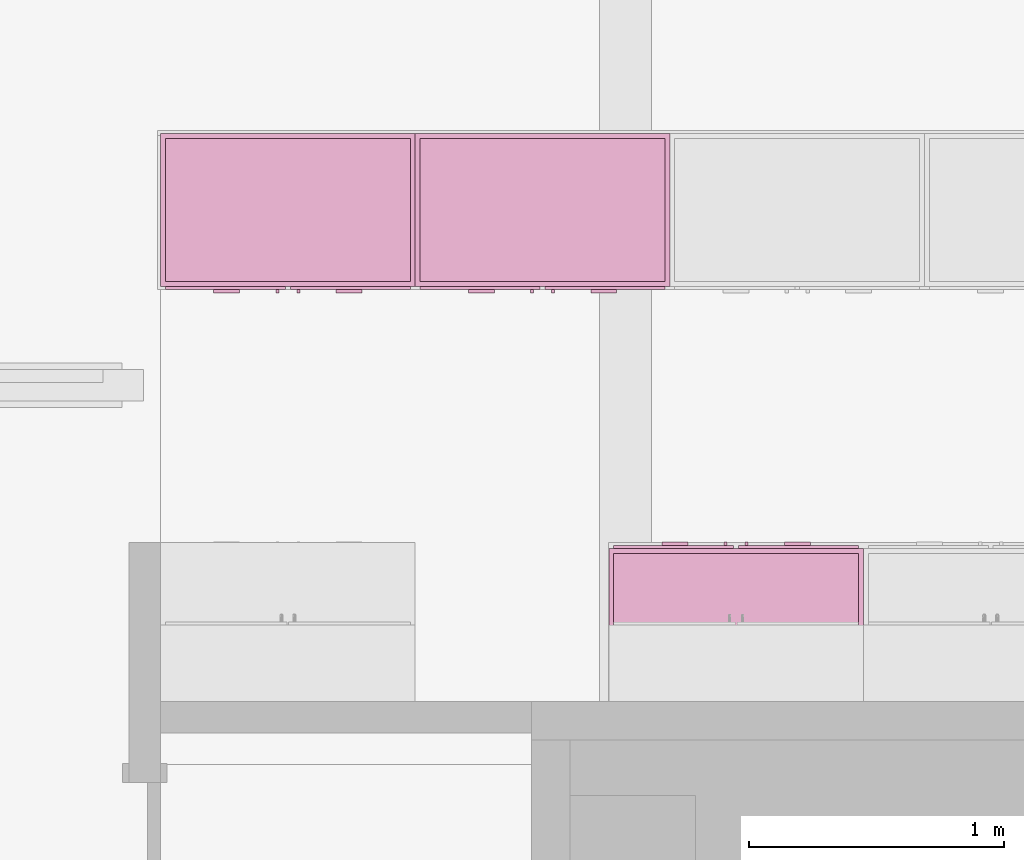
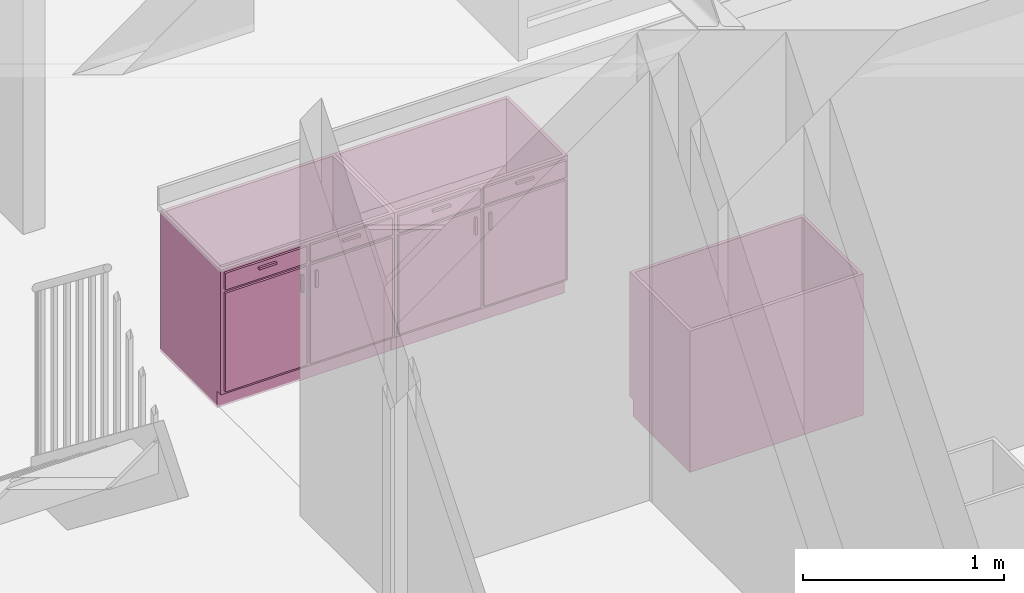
# One storey, part 10 of 14: 3 furnishings.
"""IFC4 building model written with IfcOpenShell, lengths in metres."""

from ifc_helpers import new_model, entity, si_unit, converted_unit, frame, origin, place, context, project, spatial, face_set, surface_model, source, transform, mapped, element, save


model = new_model("IFC4")

# Units and contexts
model_context = context("Model", 3, precision=1e-09, world=origin())
plan_context = context("Plan", 3, precision=1e-09, world=origin())
ifc_project = project(units=[si_unit("LENGTHUNIT", "METRE"), si_unit("AREAUNIT", "SQUARE_METRE"), si_unit("VOLUMEUNIT", "CUBIC_METRE"), converted_unit("PLANEANGLEUNIT", "DEGREE", entity("IfcRatioMeasure", 0.01745329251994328), si_unit("PLANEANGLEUNIT", "RADIAN"), dimensions=[0, 0, 0, 0, 0, 0, 0]), si_unit("TIMEUNIT", "SECOND")], contexts=[model_context, plan_context])

# Site, building, storey, space
site_placement = place(None, origin())
site = spatial("IfcSite", under=ifc_project, at=site_placement, Name="Default", CompositionType="ELEMENT")
building_placement = place(site_placement, origin())
building = spatial("IfcBuilding", under=site, at=building_placement, CompositionType="ELEMENT")
storey_placement = place(building_placement, origin())
storey = spatial("IfcBuildingStorey", under=building, at=storey_placement, Name="Level 1", CompositionType="ELEMENT", Elevation=0.0)
space_placement = place(storey_placement, origin())
space = spatial("IfcSpace", under=storey, at=space_placement, Name="B103", CompositionType="ELEMENT", PredefinedType="INTERNAL")

# Furnishings
shared_shape = source(origin(), model_context, "Body", "SurfaceModel", [
    surface_model("IfcFaceBasedSurfaceModel", [(0.9809499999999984, 0.04445000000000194, 0.8600000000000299), (0.9809499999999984, 0.04445000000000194, 0.0999999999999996), (0.01905000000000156, 0.04445000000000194, 0.0999999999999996), (0.01905000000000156, 0.04445000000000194, 0.8600000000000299), (1.0, 0.02540000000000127, 0.8600000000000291), (0.0, 0.02540000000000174, 0.8600000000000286), (1.0, 0.02540000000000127, 0.0999999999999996), (0.0, 0.02540000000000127, 0.09999999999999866), (0.01905000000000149, 0.606349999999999, 0.8600000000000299), (0.01905000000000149, 0.606349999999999, 0.09999999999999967), (0.01905000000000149, 0.06040000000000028, 0.0999999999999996), (0.0, 0.6253999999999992, 0.8600000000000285), (0.0, 0.6254000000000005, 0.0), (0.0, 0.06040000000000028, 0.0), (0.0, 0.06040000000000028, 0.09999999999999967), (0.9809499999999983, 0.6063499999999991, 0.8600000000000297), (0.9809499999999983, 0.6063499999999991, 0.09999999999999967), (1.0, 0.6253999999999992, 0.8600000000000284), (1.0, 0.6253999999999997, 0.0), (0.9809499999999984, 0.06040000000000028, 0.09999999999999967), (1.0, 0.06040000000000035, 0.09999999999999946), (1.0, 0.06040000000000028, 0.0), (0.3103250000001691, 0.0, 0.815550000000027), (0.3103250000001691, 0.0, 0.8028500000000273), (0.2087250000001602, 0.0, 0.8028500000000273), (0.2087250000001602, 0.0, 0.815550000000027), (0.7912750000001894, 0.0, 0.815550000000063), (0.7912750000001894, 0.0, 0.8028500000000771), (0.6896750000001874, 0.0, 0.8028500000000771), (0.6896750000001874, 0.0, 0.815550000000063), (0.4650750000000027, 0.0, 0.6822000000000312), (0.4650750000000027, 0.0, 0.5806000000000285), (0.4523750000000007, 0.0, 0.5806000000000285), (0.4523750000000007, 0.0, 0.6822000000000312), (0.5476249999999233, 0.0, 0.6822000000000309), (0.5476249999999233, 0.0, 0.5806000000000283), (0.5349249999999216, 0.0, 0.5806000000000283), (0.5349249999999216, 0.0, 0.6822000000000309), (0.3103250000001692, 0.01270000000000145, 0.815550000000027), (0.3103250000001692, 0.01270000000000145, 0.8028500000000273), (0.2087250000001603, 0.01270000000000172, 0.8028500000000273), (0.2087250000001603, 0.01270000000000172, 0.815550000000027), (0.7912750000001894, 0.01269999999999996, 0.815550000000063), (0.7912750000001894, 0.01269999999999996, 0.8028500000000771), (0.6896750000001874, 0.01270000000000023, 0.8028500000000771), (0.6896750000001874, 0.01270000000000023, 0.815550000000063), (0.4650750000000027, 0.0127000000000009, 0.6822000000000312), (0.4650750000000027, 0.0127000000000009, 0.5806000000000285), (0.4523750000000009, 0.0127000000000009, 0.5806000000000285), (0.4523750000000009, 0.0127000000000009, 0.6822000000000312), (0.5476249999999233, 0.01270000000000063, 0.6822000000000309), (0.5476249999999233, 0.01270000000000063, 0.5806000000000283), (0.5349249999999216, 0.01270000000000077, 0.5806000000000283), (0.5349249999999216, 0.01270000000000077, 0.6822000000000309), (0.4904749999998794, 0.0127000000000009, 0.840950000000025), (0.4904749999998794, 0.0127000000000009, 0.7393500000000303), (0.01905000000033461, 0.01270000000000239, 0.7393500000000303), (0.01905000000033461, 0.01270000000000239, 0.840950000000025), (0.9809500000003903, 0.01269999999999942, 0.8409500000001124), (0.9809500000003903, 0.01269999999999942, 0.7393500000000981), (0.509524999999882, 0.0127000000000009, 0.7393500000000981), (0.509524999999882, 0.0127000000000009, 0.8409500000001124), (0.4904749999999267, 0.0127000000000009, 0.7203000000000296), (0.4904749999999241, 0.0127000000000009, 0.119049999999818), (0.01905000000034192, 0.01270000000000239, 0.119049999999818), (0.01905000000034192, 0.01270000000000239, 0.7203000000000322), (0.9809500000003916, 0.01269999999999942, 0.7203000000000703), (0.9809500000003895, 0.01269999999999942, 0.1190499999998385), (0.5095249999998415, 0.0127000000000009, 0.1190499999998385), (0.5095249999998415, 0.0127000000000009, 0.7203000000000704), (0.4904749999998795, 0.02540000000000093, 0.840950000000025), (0.4904749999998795, 0.02540000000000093, 0.7393500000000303), (0.01905000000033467, 0.02540000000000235, 0.7393500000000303), (0.01905000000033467, 0.02540000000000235, 0.840950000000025), (0.9809500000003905, 0.02539999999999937, 0.8409500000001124), (0.9809500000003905, 0.02539999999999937, 0.7393500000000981), (0.5095249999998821, 0.02540000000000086, 0.7393500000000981), (0.5095249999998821, 0.02540000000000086, 0.8409500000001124), (0.4904749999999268, 0.02540000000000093, 0.7203000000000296), (0.4904749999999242, 0.02540000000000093, 0.119049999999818), (0.01905000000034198, 0.02540000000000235, 0.119049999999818), (0.01905000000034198, 0.02540000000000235, 0.7203000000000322), (0.9809500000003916, 0.02539999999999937, 0.7203000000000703), (0.9809500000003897, 0.02539999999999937, 0.1190499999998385), (0.5095249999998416, 0.02540000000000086, 0.1190499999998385), (0.5095249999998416, 0.02540000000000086, 0.7203000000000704), (0.9809499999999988, 0.6063499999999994, 0.1190499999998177), (0.9809499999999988, 0.04445000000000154, 0.1190499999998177), (0.01905000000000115, 0.04445000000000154, 0.1190499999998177), (0.01905000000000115, 0.6063499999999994, 0.1190499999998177), (0.9809499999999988, 0.6063499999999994, 0.09999999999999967), (0.9809499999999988, 0.04445000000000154, 0.09999999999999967), (0.01905000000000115, 0.04445000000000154, 0.09999999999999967), (0.01905000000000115, 0.6063499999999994, 0.09999999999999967)], [face_set([[[0, 1, 2, 3]], [[0, 4, 5, 3]], [[4, 6, 7, 5]], [[2, 1, 6, 7]], [[3, 8, 9, 10, 2]], [[5, 11, 8, 3]], [[7, 5, 11, 12, 13, 14]], [[2, 7, 14, 10]], [[8, 15, 16, 9]], [[11, 17, 15, 8]], [[12, 11, 17, 18]], [[1, 19, 16, 15, 0]], [[0, 15, 17, 4]], [[4, 6, 20, 21, 18, 17]], [[6, 1, 19, 20]], [[10, 9, 16, 19]], [[18, 21, 13, 12]], [[13, 14, 10, 19, 20, 21]]]), face_set([[[22, 23, 24, 25]], [[26, 27, 28, 29]], [[30, 31, 32, 33]], [[34, 35, 36, 37]], [[38, 39, 40, 41]], [[42, 43, 44, 45]], [[46, 47, 48, 49]], [[50, 51, 52, 53]], [[25, 41, 38, 22]], [[24, 40, 41, 25]], [[23, 24, 40, 39]], [[22, 23, 39, 38]], [[29, 45, 42, 26]], [[28, 44, 45, 29]], [[27, 28, 44, 43]], [[26, 27, 43, 42]], [[33, 49, 46, 30]], [[32, 48, 49, 33]], [[31, 32, 48, 47]], [[30, 31, 47, 46]], [[37, 53, 50, 34]], [[36, 52, 53, 37]], [[35, 36, 52, 51]], [[34, 35, 51, 50]]]), face_set([[[54, 55, 56, 57]], [[58, 59, 60, 61]], [[62, 63, 64, 65]], [[66, 67, 68, 69]], [[70, 71, 72, 73]], [[74, 75, 76, 77]], [[78, 79, 80, 81]], [[82, 83, 84, 85]], [[57, 73, 70, 54]], [[56, 57, 73, 72]], [[55, 56, 72, 71]], [[54, 55, 71, 70]], [[61, 77, 74, 58]], [[60, 76, 77, 61]], [[59, 60, 76, 75]], [[58, 59, 75, 74]], [[65, 81, 78, 62]], [[64, 65, 81, 80]], [[63, 64, 80, 79]], [[62, 63, 79, 78]], [[69, 85, 82, 66]], [[68, 84, 85, 69]], [[67, 68, 84, 83]], [[66, 67, 83, 82]]]), face_set([[[86, 87, 88, 89]], [[90, 91, 92, 93]], [[89, 86, 90, 93]], [[88, 89, 93, 92]], [[87, 91, 92, 88]], [[86, 87, 91, 90]]])]),
])
furnishing_placement = place(space_placement, frame((5.333999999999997, -6.804599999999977, 0.0), z_axis=(0.0, 0.0, 1.0), x_axis=(-1.0, 0.0, 0.0)))
element("IfcFurnishingElement", 1, at=furnishing_placement, inside=space, Name="M_Base Cabinet-Double Door & 2 Drawer:1000mm:1000mm", ObjectType="1000mm", context=model_context, shape_type="MappedRepresentation", body=[
    mapped(shared_shape, transform((0.0, 0.0, 0.0), scale=1.0)),
])
for number, where in (
    (2, (2.574000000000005, -5.825400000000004, 0.0)),
    (3, (3.574000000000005, -5.825400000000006, 0.0)),
):
    element("IfcFurnishingElement", number, at=place(space_placement, frame(where)), inside=space, Name="M_Base Cabinet-Double Door & 2 Drawer:1000mm:1000mm", ObjectType="1000mm", context=model_context, shape_type="MappedRepresentation", body=[
        mapped(shared_shape, transform((0.0, 0.0, 0.0), scale=1.0)),
    ])

save(model, "model.ifc")
